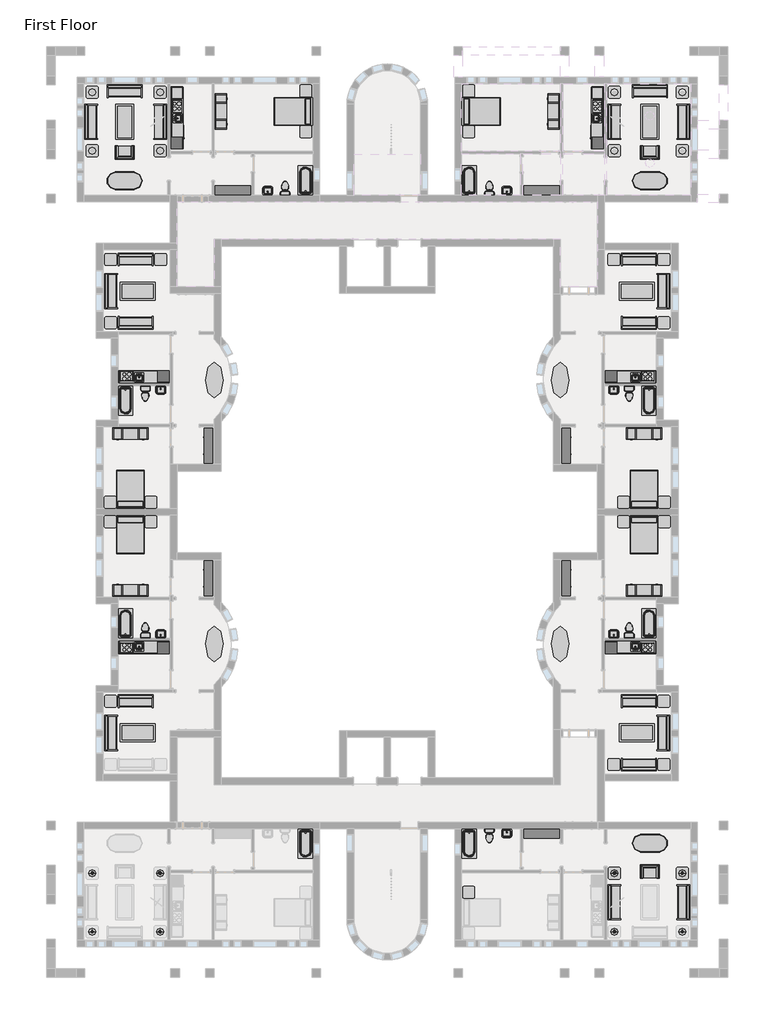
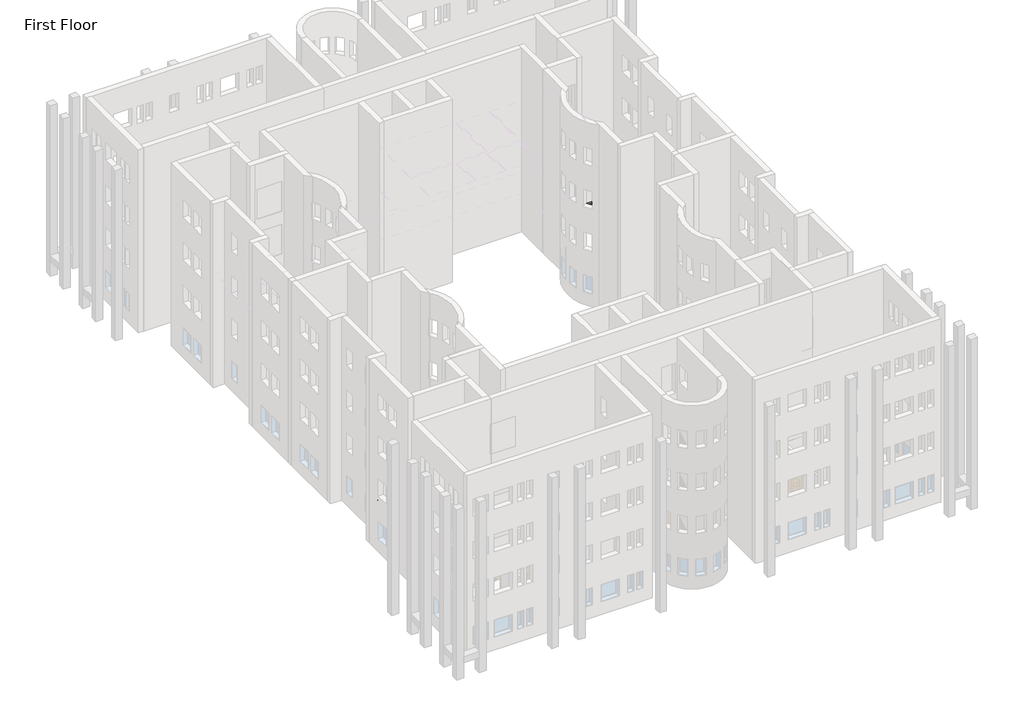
# One storey, part 20 of 21: 87 furniture elements, 22 flow terminals, 8 light fixtures, 6 proxies.
"""IFC4 building model written with IfcOpenShell, lengths in millimetres."""

from ifc_helpers import new_model, si_unit, origin, place, context, project, spatial, transform, mapped, element, save
from components import kitchenette_medium_5_9f73a4de, kitchenette_medium_5_952fb32b, proxy_64a468c4, proxy_b7eaed23, flow_terminal_0aeb31e3, flow_terminal_b53e1081, toilet_domestic_3d_toilet_domestic_3d_f7549cf7, toilet_domestic_3d_toilet_domestic_3d_183bbd19, toilet_domestic_3d_toilet_domestic_3d_a08e12bc, toilet_domestic_3d_toilet_domestic_3d_5530cc89, tub_rectangular_3d_tub_rectangular_3d_5e45a89b, tub_rectangular_3d_tub_rectangular_3d_98eb9c7c, furniture_096e7f55, furniture_097b173b, chair_corbu_chair_corbu_2764bdef, chair_corbu_chair_corbu_95fad79a, furniture_7c473f12, furniture_f6e81328, furniture_ddc78764, furniture_328d9d47, furniture_4ef38d96, furniture_dde8a40a, furniture_cd93a443, furniture_c9413244, furniture_2c34a4f9, furniture_cc351095, furniture_43880056, furniture_a7425590, furniture_3a588284, furniture_1befe2a2, table_lamp_standard_60w_120v_6e8cd8b1, table_lamp_standard_60w_120v_b33ea945

model = new_model("IFC4")

# Units and contexts
model_context = context("Model", 3, world=origin())
ifc_project = project(units=[si_unit("LENGTHUNIT", "METRE", prefix="MILLI")], contexts=[model_context])

# Site, building, storey
site = spatial("IfcSite", under=ifc_project)
building = spatial("IfcBuilding", under=site)
storey = spatial("IfcBuildingStorey", under=building, Name="First Floor", Elevation=0.0)

# Proxies
placement = place(None, origin())
kitchenette_medium_5_shape = kitchenette_medium_5_9f73a4de(model_context)
element("IfcBuildingElementProxy", 1, Name="Kitchenette - Medium : 5'", ObjectType="Kitchenette - Medium : 5'", at=placement, inside=storey, context=model_context, shape_type="MappedRepresentation", body=[
    mapped(kitchenette_medium_5_shape, transform((-28239.6966612, -4535.7577414, 0.0), x_axis=(1.0, 0.0, 0.0), y_axis=(0.0, 1.0, 0.0), z_axis=(0.0, 0.0, 1.0))),
])
element("IfcBuildingElementProxy", 2, Name="Kitchenette - Medium : 5'", ObjectType="Kitchenette - Medium : 5'", at=placement, inside=storey, context=model_context, shape_type="MappedRepresentation", body=[
    mapped(kitchenette_medium_5_shape, transform((-1884.6462514, -19155.1288852, 0.0), x_axis=(-1.0, 0.0, 0.0), y_axis=(0.0, -1.0, 0.0), z_axis=(0.0, 0.0, 1.0))),
])
kitchenette_medium_5_2_shape = kitchenette_medium_5_952fb32b(model_context)
element("IfcBuildingElementProxy", 3, Name="Kitchenette - Medium : 5'", ObjectType="Kitchenette - Medium : 5'", at=placement, inside=storey, context=model_context, shape_type="MappedRepresentation", body=[
    mapped(kitchenette_medium_5_2_shape, transform((-1884.6462514, -4535.7577414, 0.0), x_axis=(-1.0, 0.0, 0.0), y_axis=(0.0, -1.0, 0.0), z_axis=(0.0, 0.0, 1.0))),
])
element("IfcBuildingElementProxy", 4, Name="Kitchenette - Medium : 5'", ObjectType="Kitchenette - Medium : 5'", at=placement, inside=storey, context=model_context, shape_type="MappedRepresentation", body=[
    mapped(kitchenette_medium_5_2_shape, transform((-28239.6966612, -19155.1288852, 0.0), x_axis=(1.0, 0.0, 0.0), y_axis=(0.0, 1.0, 0.0), z_axis=(0.0, 0.0, 1.0))),
])
proxy_shape = proxy_64a468c4(model_context)
element("IfcBuildingElementProxy", 5, Name="Kitchenette - Medium : 8'6\"", ObjectType="Kitchenette - Medium : 8'6\"", at=placement, inside=storey, context=model_context, shape_type="MappedRepresentation", body=[
    mapped(proxy_shape, transform((-3887.7589563, 8837.7956433, 0.0), x_axis=(0.0, -1.0, 0.0), y_axis=(1.0, 0.0, 0.0), z_axis=(0.0, 0.0, 1.0))),
])
proxy_2_shape = proxy_b7eaed23(model_context)
element("IfcBuildingElementProxy", 6, Name="Kitchenette - Medium : 8'6\"", ObjectType="Kitchenette - Medium : 8'6\"", at=placement, inside=storey, context=model_context, shape_type="MappedRepresentation", body=[
    mapped(proxy_2_shape, transform((-26236.5839563, 8837.7956433, 0.0), x_axis=(0.0, -1.0, 0.0), y_axis=(1.0, 0.0, 0.0), z_axis=(0.0, 0.0, 1.0))),
])

# Flow terminals
flow_terminal_shape = flow_terminal_0aeb31e3(model_context)
element("IfcFlowTerminal", 7, ObjectType="Sink Vanity-Square : 24\" x 19\"", at=placement, inside=storey, context=model_context, shape_type="MappedRepresentation", body=[
    mapped(flow_terminal_shape, transform((-8864.7572157, 4706.5895878, 0.0), x_axis=(-1.0, 0.0, 0.0), y_axis=(0.0, -1.0, 0.0), z_axis=(0.0, 0.0, 1.0))),
])
element("IfcFlowTerminal", 8, ObjectType="Sink Vanity-Square : 24\" x 19\"", at=placement, inside=storey, context=model_context, shape_type="MappedRepresentation", body=[
    mapped(flow_terminal_shape, transform((-26788.6702389, -5496.2012144, 0.0), x_axis=(1.0, 0.0, 0.0), y_axis=(0.0, 1.0, 0.0), z_axis=(0.0, 0.0, 1.0))),
])
element("IfcFlowTerminal", 9, ObjectType="Sink Vanity-Square : 24\" x 19\"", at=placement, inside=storey, context=model_context, shape_type="MappedRepresentation", body=[
    mapped(flow_terminal_shape, transform((-3335.6726738, -18194.6854122, 0.0), x_axis=(-1.0, 0.0, 0.0), y_axis=(0.0, -1.0, 0.0), z_axis=(0.0, 0.0, 1.0))),
])
flow_terminal_2_shape = flow_terminal_b53e1081(model_context)
element("IfcFlowTerminal", 10, ObjectType="Sink Vanity-Square : 24\" x 19\"", at=placement, inside=storey, context=model_context, shape_type="MappedRepresentation", body=[
    mapped(flow_terminal_2_shape, transform((-3335.6726738, -5496.2012144, 0.0), x_axis=(-1.0, 0.0, 0.0), y_axis=(0.0, -1.0, 0.0), z_axis=(0.0, 0.0, 1.0))),
])
element("IfcFlowTerminal", 11, ObjectType="Sink Vanity-Square : 24\" x 19\"", at=placement, inside=storey, context=model_context, shape_type="MappedRepresentation", body=[
    mapped(flow_terminal_2_shape, transform((-21259.5856969, 4706.5895878, 0.0), x_axis=(1.0, 0.0, 0.0), y_axis=(0.0, 1.0, 0.0), z_axis=(0.0, 0.0, 1.0))),
])
element("IfcFlowTerminal", 12, ObjectType="Sink Vanity-Square : 24\" x 19\"", at=placement, inside=storey, context=model_context, shape_type="MappedRepresentation", body=[
    mapped(flow_terminal_2_shape, transform((-8864.7572157, -28397.4762144, 0.0), x_axis=(-1.0, 0.0, 0.0), y_axis=(0.0, -1.0, 0.0), z_axis=(0.0, 0.0, 1.0))),
])
element("IfcFlowTerminal", 13, ObjectType="Sink Vanity-Square : 24\" x 19\"", at=placement, inside=storey, context=model_context, shape_type="MappedRepresentation", body=[
    mapped(flow_terminal_2_shape, transform((-26788.6702389, -18194.6854122, 0.0), x_axis=(1.0, 0.0, 0.0), y_axis=(0.0, 1.0, 0.0), z_axis=(0.0, 0.0, 1.0))),
])
toilet_domestic_3d_toilet_domestic_3d_shape = toilet_domestic_3d_toilet_domestic_3d_f7549cf7(model_context)
toilet_domestic_3d_toilet_domestic_3d_2_shape = toilet_domestic_3d_toilet_domestic_3d_183bbd19(model_context)
element("IfcFlowTerminal", 14, ObjectType="Toilet-Domestic-3D : Toilet-Domestic-3D", at=placement, inside=storey, context=model_context, shape_type="MappedRepresentation", body=[
    mapped(toilet_domestic_3d_toilet_domestic_3d_shape, transform((-9782.1466587, 4940.866411, 0.0), x_axis=(-1.0000000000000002, 0.0, 0.0), y_axis=(0.0, -1.0000000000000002, 0.0), z_axis=(0.0, 0.0, 1.0))),
    mapped(toilet_domestic_3d_toilet_domestic_3d_2_shape, transform((-9782.1466587, 4940.866411, 0.0), x_axis=(-1.0000000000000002, 0.0, 0.0), y_axis=(0.0, -1.0000000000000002, 0.0), z_axis=(0.0, 0.0, 1.0))),
])
element("IfcFlowTerminal", 15, ObjectType="Toilet-Domestic-3D : Toilet-Domestic-3D", at=placement, inside=storey, context=model_context, shape_type="MappedRepresentation", body=[
    mapped(toilet_domestic_3d_toilet_domestic_3d_shape, transform((-27568.2684762, -5821.7170267, 0.0), x_axis=(1.0, 0.0, 0.0), y_axis=(0.0, 1.0, 0.0), z_axis=(0.0, 0.0, 1.0))),
    mapped(toilet_domestic_3d_toilet_domestic_3d_2_shape, transform((-27568.2684762, -5821.7170267, 0.0), x_axis=(1.0, 0.0, 0.0), y_axis=(0.0, 1.0, 0.0), z_axis=(0.0, 0.0, 1.0))),
])
element("IfcFlowTerminal", 16, ObjectType="Toilet-Domestic-3D : Toilet-Domestic-3D", at=placement, inside=storey, context=model_context, shape_type="MappedRepresentation", body=[
    mapped(toilet_domestic_3d_toilet_domestic_3d_shape, transform((-2556.0744364, -17869.1695999, 0.0), x_axis=(-1.0, 0.0, 0.0), y_axis=(0.0, -1.0, 0.0), z_axis=(0.0, 0.0, 1.0))),
    mapped(toilet_domestic_3d_toilet_domestic_3d_2_shape, transform((-2556.0744364, -17869.1695999, 0.0), x_axis=(-1.0, 0.0, 0.0), y_axis=(0.0, -1.0, 0.0), z_axis=(0.0, 0.0, 1.0))),
])
toilet_domestic_3d_toilet_domestic_3d_3_shape = toilet_domestic_3d_toilet_domestic_3d_a08e12bc(model_context)
toilet_domestic_3d_toilet_domestic_3d_4_shape = toilet_domestic_3d_toilet_domestic_3d_5530cc89(model_context)
element("IfcFlowTerminal", 17, ObjectType="Toilet-Domestic-3D : Toilet-Domestic-3D", at=placement, inside=storey, context=model_context, shape_type="MappedRepresentation", body=[
    mapped(toilet_domestic_3d_toilet_domestic_3d_3_shape, transform((-2556.0744364, -5821.7170267, 0.0), x_axis=(-1.0, 0.0, 0.0), y_axis=(0.0, -1.0, 0.0), z_axis=(0.0, 0.0, 1.0))),
    mapped(toilet_domestic_3d_toilet_domestic_3d_4_shape, transform((-2556.0744364, -5821.7170267, 0.0), x_axis=(-1.0, 0.0, 0.0), y_axis=(0.0, -1.0, 0.0), z_axis=(0.0, 0.0, 1.0))),
])
element("IfcFlowTerminal", 18, ObjectType="Toilet-Domestic-3D : Toilet-Domestic-3D", at=placement, inside=storey, context=model_context, shape_type="MappedRepresentation", body=[
    mapped(toilet_domestic_3d_toilet_domestic_3d_3_shape, transform((-20342.1962539, 4940.866411, 0.0), x_axis=(1.0, 0.0, 0.0), y_axis=(0.0, 1.0, 0.0), z_axis=(0.0, 0.0, 1.0))),
    mapped(toilet_domestic_3d_toilet_domestic_3d_4_shape, transform((-20342.1962539, 4940.866411, 0.0), x_axis=(1.0, 0.0, 0.0), y_axis=(0.0, 1.0, 0.0), z_axis=(0.0, 0.0, 1.0))),
])
element("IfcFlowTerminal", 19, ObjectType="Toilet-Domestic-3D : Toilet-Domestic-3D", at=placement, inside=storey, context=model_context, shape_type="MappedRepresentation", body=[
    mapped(toilet_domestic_3d_toilet_domestic_3d_3_shape, transform((-9782.1466587, -28631.7530376, 0.0), x_axis=(-1.0, 0.0, 0.0), y_axis=(0.0, -1.0, 0.0), z_axis=(0.0, 0.0, 1.0))),
    mapped(toilet_domestic_3d_toilet_domestic_3d_4_shape, transform((-9782.1466587, -28631.7530376, 0.0), x_axis=(-1.0, 0.0, 0.0), y_axis=(0.0, -1.0, 0.0), z_axis=(0.0, 0.0, 1.0))),
])
element("IfcFlowTerminal", 20, ObjectType="Toilet-Domestic-3D : Toilet-Domestic-3D", at=placement, inside=storey, context=model_context, shape_type="MappedRepresentation", body=[
    mapped(toilet_domestic_3d_toilet_domestic_3d_3_shape, transform((-27568.2684762, -17869.1695999, 0.0), x_axis=(1.0, 0.0, 0.0), y_axis=(0.0, 1.0, 0.0), z_axis=(0.0, 0.0, 1.0))),
    mapped(toilet_domestic_3d_toilet_domestic_3d_4_shape, transform((-27568.2684762, -17869.1695999, 0.0), x_axis=(1.0, 0.0, 0.0), y_axis=(0.0, 1.0, 0.0), z_axis=(0.0, 0.0, 1.0))),
])
tub_rectangular_3d_tub_rectangular_3d_shape = tub_rectangular_3d_tub_rectangular_3d_5e45a89b(model_context)
element("IfcFlowTerminal", 21, ObjectType="Tub-Rectangular-3D : Tub-Rectangular-3D", at=placement, inside=storey, context=model_context, shape_type="MappedRepresentation", body=[
    mapped(tub_rectangular_3d_tub_rectangular_3d_shape, transform((-11393.4589563, 5637.0471554, 0.0), x_axis=(0.0, 1.0, 0.0), y_axis=(-1.0, 0.0, 0.0), z_axis=(0.0, 0.0, 1.0))),
])
element("IfcFlowTerminal", 22, ObjectType="Tub-Rectangular-3D : Tub-Rectangular-3D", at=placement, inside=storey, context=model_context, shape_type="MappedRepresentation", body=[
    mapped(tub_rectangular_3d_tub_rectangular_3d_shape, transform((-965.1714563, -6439.358782, 0.0), x_axis=(0.0, -1.0, 0.0), y_axis=(1.0, 0.0, 0.0), z_axis=(0.0, 0.0, 1.0))),
])
element("IfcFlowTerminal", 23, ObjectType="Tub-Rectangular-3D : Tub-Rectangular-3D", at=placement, inside=storey, context=model_context, shape_type="MappedRepresentation", body=[
    mapped(tub_rectangular_3d_tub_rectangular_3d_shape, transform((-18730.8839563, -29327.933782, 0.0), x_axis=(0.0, -1.0, 0.0), y_axis=(1.0, 0.0, 0.0), z_axis=(0.0, 0.0, 1.0))),
])
element("IfcFlowTerminal", 24, ObjectType="Tub-Rectangular-3D : Tub-Rectangular-3D", at=placement, inside=storey, context=model_context, shape_type="MappedRepresentation", body=[
    mapped(tub_rectangular_3d_tub_rectangular_3d_shape, transform((-29159.1714563, -17251.5278446, 0.0), x_axis=(0.0, 1.0, 0.0), y_axis=(-1.0, 0.0, 0.0), z_axis=(0.0, 0.0, 1.0))),
])
tub_rectangular_3d_tub_rectangular_3d_2_shape = tub_rectangular_3d_tub_rectangular_3d_98eb9c7c(model_context)
element("IfcFlowTerminal", 25, ObjectType="Tub-Rectangular-3D : Tub-Rectangular-3D", at=placement, inside=storey, context=model_context, shape_type="MappedRepresentation", body=[
    mapped(tub_rectangular_3d_tub_rectangular_3d_2_shape, transform((-18730.8839563, 5637.0471554, 0.0), x_axis=(0.0, 1.0, 0.0), y_axis=(-1.0, 0.0, 0.0), z_axis=(0.0, 0.0, 1.0))),
])
element("IfcFlowTerminal", 26, ObjectType="Tub-Rectangular-3D : Tub-Rectangular-3D", at=placement, inside=storey, context=model_context, shape_type="MappedRepresentation", body=[
    mapped(tub_rectangular_3d_tub_rectangular_3d_2_shape, transform((-29159.1714563, -6439.358782, 0.0), x_axis=(0.0, -1.0, 0.0), y_axis=(1.0, 0.0, 0.0), z_axis=(0.0, 0.0, 1.0))),
])
element("IfcFlowTerminal", 27, ObjectType="Tub-Rectangular-3D : Tub-Rectangular-3D", at=placement, inside=storey, context=model_context, shape_type="MappedRepresentation", body=[
    mapped(tub_rectangular_3d_tub_rectangular_3d_2_shape, transform((-11393.4589563, -29327.933782, 0.0), x_axis=(0.0, -1.0, 0.0), y_axis=(1.0, 0.0, 0.0), z_axis=(0.0, 0.0, 1.0))),
])
element("IfcFlowTerminal", 28, ObjectType="Tub-Rectangular-3D : Tub-Rectangular-3D", at=placement, inside=storey, context=model_context, shape_type="MappedRepresentation", body=[
    mapped(tub_rectangular_3d_tub_rectangular_3d_2_shape, transform((-965.1714563, -17251.5278446, 0.0), x_axis=(0.0, 1.0, 0.0), y_axis=(-1.0, 0.0, 0.0), z_axis=(0.0, 0.0, 1.0))),
])

# Furniture
furniture_shape = furniture_096e7f55(model_context)
element("IfcFurniture", 29, ObjectType="Bed-Shaker : Double 56\" x 78\"", at=placement, inside=storey, context=model_context, shape_type="MappedRepresentation", body=[
    mapped(furniture_shape, transform((-11183.1982802, 8871.8755561, 0.0), x_axis=(0.0, 1.0, 0.0), y_axis=(-1.0, 0.0, 0.0), z_axis=(0.0, 0.0, 1.0))),
])
element("IfcFurniture", 30, ObjectType="Bed-Shaker : Double 56\" x 78\"", at=placement, inside=storey, context=model_context, shape_type="MappedRepresentation", body=[
    mapped(furniture_shape, transform((-28352.7607767, -11666.5280883, 0.0), x_axis=(-1.0, 0.0, 0.0), y_axis=(0.0, -1.0, 0.0), z_axis=(0.0, 0.0, 1.0))),
])
element("IfcFurniture", 31, ObjectType="Bed-Shaker : Double 56\" x 78\"", at=placement, inside=storey, context=model_context, shape_type="MappedRepresentation", body=[
    mapped(furniture_shape, transform((-1771.5821359, -12024.3585384, 0.0), x_axis=(1.0, 0.0, 0.0), y_axis=(0.0, 1.0, 0.0), z_axis=(0.0, 0.0, 1.0))),
])
furniture_2_shape = furniture_097b173b(model_context)
element("IfcFurniture", 32, ObjectType="Bed-Shaker : Double 56\" x 78\"", at=placement, inside=storey, context=model_context, shape_type="MappedRepresentation", body=[
    mapped(furniture_2_shape, transform((-1771.5821359, -11666.5280883, 0.0), x_axis=(1.0, 0.0, 0.0), y_axis=(0.0, 1.0, 0.0), z_axis=(0.0, 0.0, 1.0))),
])
element("IfcFurniture", 33, ObjectType="Bed-Shaker : Double 56\" x 78\"", at=placement, inside=storey, context=model_context, shape_type="MappedRepresentation", body=[
    mapped(furniture_2_shape, transform((-18941.1446324, 8871.8755561, 0.0), x_axis=(0.0, 1.0, 0.0), y_axis=(-1.0, 0.0, 0.0), z_axis=(0.0, 0.0, 1.0))),
])
element("IfcFurniture", 34, ObjectType="Bed-Shaker : Double 56\" x 78\"", at=placement, inside=storey, context=model_context, shape_type="MappedRepresentation", body=[
    mapped(furniture_2_shape, transform((-28352.7607767, -12024.3585384, 0.0), x_axis=(-1.0, 0.0, 0.0), y_axis=(0.0, -1.0, 0.0), z_axis=(0.0, 0.0, 1.0))),
])
chair_corbu_chair_corbu_shape = chair_corbu_chair_corbu_2764bdef(model_context)
element("IfcFurniture", 35, ObjectType="Chair-Corbu : Chair-Corbu", at=placement, inside=storey, context=model_context, shape_type="MappedRepresentation", body=[
    mapped(chair_corbu_chair_corbu_shape, transform((-914.0851858, 7193.4962359, 0.0), x_axis=(-1.0, 0.0, 0.0), y_axis=(0.0, -1.0, 0.0), z_axis=(0.0, 0.0, 1.0))),
])
chair_corbu_chair_corbu_2_shape = chair_corbu_chair_corbu_95fad79a(model_context)
element("IfcFurniture", 36, ObjectType="Chair-Corbu : Chair-Corbu", at=placement, inside=storey, context=model_context, shape_type="MappedRepresentation", body=[
    mapped(chair_corbu_chair_corbu_2_shape, transform((-29210.2577268, 7193.4962359, 0.0), x_axis=(1.0, 0.0, 0.0), y_axis=(0.0, 1.0, 0.0), z_axis=(0.0, 0.0, 1.0))),
])
element("IfcFurniture", 37, ObjectType="Chair-Corbu : Chair-Corbu", at=placement, inside=storey, context=model_context, shape_type="MappedRepresentation", body=[
    mapped(chair_corbu_chair_corbu_2_shape, transform((-914.0851858, -30884.3828625, 0.0), x_axis=(-1.0, 0.0, 0.0), y_axis=(0.0, -1.0, 0.0), z_axis=(0.0, 0.0, 1.0))),
])
furniture_3_shape = furniture_7c473f12(model_context)
element("IfcFurniture", 38, ObjectType="Dresser : 72\" x 60\" x 18\"", at=placement, inside=storey, context=model_context, shape_type="MappedRepresentation", body=[
    mapped(furniture_3_shape, transform((-7344.6522161, 4404.5812326, 0.0), x_axis=(-1.0, 0.0, 0.0), y_axis=(0.0, -1.0, 0.0), z_axis=(0.0, 0.0, 1.0))),
])
element("IfcFurniture", 39, ObjectType="Dresser : 72\" x 60\" x 18\"", at=placement, inside=storey, context=model_context, shape_type="MappedRepresentation", body=[
    mapped(furniture_3_shape, transform((-23943.0210022, -8693.2758576, 0.0), x_axis=(0.0, -1.0, 0.0), y_axis=(1.0, 0.0, 0.0), z_axis=(0.0, 0.0, 1.0))),
])
element("IfcFurniture", 40, ObjectType="Dresser : 72\" x 60\" x 18\"", at=placement, inside=storey, context=model_context, shape_type="MappedRepresentation", body=[
    mapped(furniture_3_shape, transform((-6181.3219104, -14997.610769, 0.0), x_axis=(0.0, 1.0, 0.0), y_axis=(-1.0, 0.0, 0.0), z_axis=(0.0, 0.0, 1.0))),
])
furniture_4_shape = furniture_f6e81328(model_context)
element("IfcFurniture", 41, ObjectType="Dresser : 72\" x 60\" x 18\"", at=placement, inside=storey, context=model_context, shape_type="MappedRepresentation", body=[
    mapped(furniture_4_shape, transform((-6181.3219104, -8693.2758576, 0.0), x_axis=(0.0, -1.0, 0.0), y_axis=(1.0, 0.0, 0.0), z_axis=(0.0, 0.0, 1.0))),
])
element("IfcFurniture", 42, ObjectType="Dresser : 72\" x 60\" x 18\"", at=placement, inside=storey, context=model_context, shape_type="MappedRepresentation", body=[
    mapped(furniture_4_shape, transform((-22779.6906965, 4404.5812326, 0.0), x_axis=(1.0, 0.0, 0.0), y_axis=(0.0, 1.0, 0.0), z_axis=(0.0, 0.0, 1.0))),
])
element("IfcFurniture", 43, ObjectType="Dresser : 72\" x 60\" x 18\"", at=placement, inside=storey, context=model_context, shape_type="MappedRepresentation", body=[
    mapped(furniture_4_shape, transform((-7344.6522161, -28095.4678592, 0.0), x_axis=(-1.0, 0.0, 0.0), y_axis=(0.0, -1.0, 0.0), z_axis=(0.0, 0.0, 1.0))),
])
element("IfcFurniture", 44, ObjectType="Dresser : 72\" x 60\" x 18\"", at=placement, inside=storey, context=model_context, shape_type="MappedRepresentation", body=[
    mapped(furniture_4_shape, transform((-23943.0210022, -14997.610769, 0.0), x_axis=(0.0, 1.0, 0.0), y_axis=(-1.0, 0.0, 0.0), z_axis=(0.0, 0.0, 1.0))),
])
furniture_5_shape = furniture_ddc78764(model_context)
element("IfcFurniture", 45, ObjectType="Entertainment Center : 72\" x 72\" x 24\"", at=placement, inside=storey, context=model_context, shape_type="MappedRepresentation", body=[
    mapped(furniture_5_shape, transform((-6059.4589563, 8852.8255561, 0.0), x_axis=(0.0, -1.0, 0.0), y_axis=(1.0, 0.0, 0.0), z_axis=(0.0, 0.0, 1.0))),
])
element("IfcFurniture", 46, ObjectType="Entertainment Center : 72\" x 72\" x 24\"", at=placement, inside=storey, context=model_context, shape_type="MappedRepresentation", body=[
    mapped(furniture_5_shape, transform((-28333.7107767, -7387.3005393, 0.0), x_axis=(1.0, 0.0, 0.0), y_axis=(0.0, 1.0, 0.0), z_axis=(0.0, 0.0, 1.0))),
])
element("IfcFurniture", 47, ObjectType="Entertainment Center : 72\" x 72\" x 24\"", at=placement, inside=storey, context=model_context, shape_type="MappedRepresentation", body=[
    mapped(furniture_5_shape, transform((-1790.6321359, -16303.5860874, 0.0), x_axis=(-1.0, 0.0, 0.0), y_axis=(0.0, -1.0, 0.0), z_axis=(0.0, 0.0, 1.0))),
])
furniture_6_shape = furniture_328d9d47(model_context)
element("IfcFurniture", 48, ObjectType="Entertainment Center : 72\" x 72\" x 24\"", at=placement, inside=storey, context=model_context, shape_type="MappedRepresentation", body=[
    mapped(furniture_6_shape, transform((-1790.6321359, -7387.3005393, 0.0), x_axis=(-1.0, 0.0, 0.0), y_axis=(0.0, -1.0, 0.0), z_axis=(0.0, 0.0, 1.0))),
])
element("IfcFurniture", 49, ObjectType="Entertainment Center : 72\" x 72\" x 24\"", at=placement, inside=storey, context=model_context, shape_type="MappedRepresentation", body=[
    mapped(furniture_6_shape, transform((-24064.8839563, 8852.8255561, 0.0), x_axis=(0.0, -1.0, 0.0), y_axis=(1.0, 0.0, 0.0), z_axis=(0.0, 0.0, 1.0))),
])
element("IfcFurniture", 50, ObjectType="Entertainment Center : 72\" x 72\" x 24\"", at=placement, inside=storey, context=model_context, shape_type="MappedRepresentation", body=[
    mapped(furniture_6_shape, transform((-28333.7107767, -16303.5860874, 0.0), x_axis=(1.0, 0.0, 0.0), y_axis=(0.0, 1.0, 0.0), z_axis=(0.0, 0.0, 1.0))),
])
furniture_7_shape = furniture_4ef38d96(model_context)
element("IfcFurniture", 51, ObjectType="Sofa : 72\"", at=placement, inside=storey, context=model_context, shape_type="MappedRepresentation", body=[
    mapped(furniture_7_shape, transform((-1557.8294481, 9741.2775883, 0.0), x_axis=(1.0, 0.0, 0.0), y_axis=(0.0, 1.0, 0.0), z_axis=(0.0, 0.0, 1.0))),
])
element("IfcFurniture", 52, ObjectType="Sofa : 72\"", at=placement, inside=storey, context=model_context, shape_type="MappedRepresentation", body=[
    mapped(furniture_7_shape, transform((93.5869453, 8383.0021785, 0.0), x_axis=(0.0, -1.0, 0.0), y_axis=(1.0, 0.0, 0.0), z_axis=(0.0, 0.0, 1.0))),
])
element("IfcFurniture", 53, ObjectType="Sofa : 72\"", at=placement, inside=storey, context=model_context, shape_type="MappedRepresentation", body=[
    mapped(furniture_7_shape, transform((-3170.104858, 8242.2611949, 0.0), x_axis=(0.0, 1.0, 0.0), y_axis=(-1.0, 0.0, 0.0), z_axis=(0.0, 0.0, 1.0))),
])
element("IfcFurniture", 54, ObjectType="Sofa : 72\"", at=placement, inside=storey, context=model_context, shape_type="MappedRepresentation", body=[
    mapped(furniture_7_shape, transform((-2125.8802189, 1048.8345299, 0.0), x_axis=(1.0, 0.0, 0.0), y_axis=(0.0, 1.0, 0.0), z_axis=(0.0, 0.0, 1.0))),
])
element("IfcFurniture", 55, ObjectType="Sofa : 72\"", at=placement, inside=storey, context=model_context, shape_type="MappedRepresentation", body=[
    mapped(furniture_7_shape, transform((-29189.229858, -509.6263051, 0.0), x_axis=(0.0, 1.0, 0.0), y_axis=(-1.0, 0.0, 0.0), z_axis=(0.0, 0.0, 1.0))),
])
element("IfcFurniture", 56, ObjectType="Sofa : 72\"", at=placement, inside=storey, context=model_context, shape_type="MappedRepresentation", body=[
    mapped(furniture_7_shape, transform((-27998.4626937, -1927.3461565, 0.0), x_axis=(-1.0, 0.0, 0.0), y_axis=(0.0, -1.0, 0.0), z_axis=(0.0, 0.0, 1.0))),
])
element("IfcFurniture", 57, ObjectType="Sofa : 72\"", at=placement, inside=storey, context=model_context, shape_type="MappedRepresentation", body=[
    mapped(furniture_7_shape, transform((-935.1130547, -23181.2603215, 0.0), x_axis=(0.0, -1.0, 0.0), y_axis=(1.0, 0.0, 0.0), z_axis=(0.0, 0.0, 1.0))),
])
element("IfcFurniture", 58, ObjectType="Sofa : 72\"", at=placement, inside=storey, context=model_context, shape_type="MappedRepresentation", body=[
    mapped(furniture_7_shape, transform((-2125.8802189, -21763.5404701, 0.0), x_axis=(1.0, 0.0, 0.0), y_axis=(0.0, 1.0, 0.0), z_axis=(0.0, 0.0, 1.0))),
])
furniture_8_shape = furniture_dde8a40a(model_context)
element("IfcFurniture", 59, ObjectType="Sofa : 72\"", at=placement, inside=storey, context=model_context, shape_type="MappedRepresentation", body=[
    mapped(furniture_8_shape, transform((-935.1130547, -509.6263051, 0.0), x_axis=(0.0, 1.0, 0.0), y_axis=(-1.0, 0.0, 0.0), z_axis=(0.0, 0.0, 1.0))),
])
element("IfcFurniture", 60, ObjectType="Sofa : 72\"", at=placement, inside=storey, context=model_context, shape_type="MappedRepresentation", body=[
    mapped(furniture_8_shape, transform((-2125.8802189, -1927.3461565, 0.0), x_axis=(1.0, 0.0, 0.0), y_axis=(0.0, 1.0, 0.0), z_axis=(0.0, 0.0, 1.0))),
])
element("IfcFurniture", 61, ObjectType="Sofa : 72\"", at=placement, inside=storey, context=model_context, shape_type="MappedRepresentation", body=[
    mapped(furniture_8_shape, transform((-28566.5134645, 9741.2775883, 0.0), x_axis=(-1.0, 0.0, 0.0), y_axis=(0.0, -1.0, 0.0), z_axis=(0.0, 0.0, 1.0))),
])
element("IfcFurniture", 62, ObjectType="Sofa : 72\"", at=placement, inside=storey, context=model_context, shape_type="MappedRepresentation", body=[
    mapped(furniture_8_shape, transform((-30217.929858, 8383.0021785, 0.0), x_axis=(0.0, -1.0, 0.0), y_axis=(1.0, 0.0, 0.0), z_axis=(0.0, 0.0, 1.0))),
])
element("IfcFurniture", 63, ObjectType="Sofa : 72\"", at=placement, inside=storey, context=model_context, shape_type="MappedRepresentation", body=[
    mapped(furniture_8_shape, transform((-26954.2380547, 8242.2611949, 0.0), x_axis=(0.0, 1.0, 0.0), y_axis=(-1.0, 0.0, 0.0), z_axis=(0.0, 0.0, 1.0))),
])
element("IfcFurniture", 64, ObjectType="Sofa : 72\"", at=placement, inside=storey, context=model_context, shape_type="MappedRepresentation", body=[
    mapped(furniture_8_shape, transform((-27998.4626937, 1048.8345299, 0.0), x_axis=(-1.0, 0.0, 0.0), y_axis=(0.0, -1.0, 0.0), z_axis=(0.0, 0.0, 1.0))),
])
element("IfcFurniture", 65, ObjectType="Sofa : 72\"", at=placement, inside=storey, context=model_context, shape_type="MappedRepresentation", body=[
    mapped(furniture_8_shape, transform((93.5869453, -32073.8888051, 0.0), x_axis=(0.0, 1.0, 0.0), y_axis=(-1.0, 0.0, 0.0), z_axis=(0.0, 0.0, 1.0))),
])
element("IfcFurniture", 66, ObjectType="Sofa : 72\"", at=placement, inside=storey, context=model_context, shape_type="MappedRepresentation", body=[
    mapped(furniture_8_shape, transform((-3170.104858, -31933.1478215, 0.0), x_axis=(0.0, -1.0, 0.0), y_axis=(1.0, 0.0, 0.0), z_axis=(0.0, 0.0, 1.0))),
])
element("IfcFurniture", 67, ObjectType="Sofa : 72\"", at=placement, inside=storey, context=model_context, shape_type="MappedRepresentation", body=[
    mapped(furniture_8_shape, transform((-2125.8802189, -24739.7211565, 0.0), x_axis=(1.0, 0.0, 0.0), y_axis=(0.0, 1.0, 0.0), z_axis=(0.0, 0.0, 1.0))),
])
element("IfcFurniture", 68, ObjectType="Sofa : 72\"", at=placement, inside=storey, context=model_context, shape_type="MappedRepresentation", body=[
    mapped(furniture_8_shape, transform((-29189.229858, -23181.2603215, 0.0), x_axis=(0.0, -1.0, 0.0), y_axis=(1.0, 0.0, 0.0), z_axis=(0.0, 0.0, 1.0))),
])
element("IfcFurniture", 69, ObjectType="Sofa : 72\"", at=placement, inside=storey, context=model_context, shape_type="MappedRepresentation", body=[
    mapped(furniture_8_shape, transform((-27998.4626937, -21763.5404701, 0.0), x_axis=(-1.0, 0.0, 0.0), y_axis=(0.0, -1.0, 0.0), z_axis=(0.0, 0.0, 1.0))),
])
furniture_9_shape = furniture_cd93a443(model_context)
element("IfcFurniture", 70, ObjectType="Table-Coffee : 36\" x 72\" x 18\"", at=placement, inside=storey, context=model_context, shape_type="MappedRepresentation", body=[
    mapped(furniture_9_shape, transform((-1582.6700341, 8330.8974534, 0.0), x_axis=(0.0, -1.0, 0.0), y_axis=(1.0, 0.0, 0.0), z_axis=(0.0, 0.0, 1.0))),
])
element("IfcFurniture", 71, ObjectType="Table-Coffee : 36\" x 72\" x 18\"", at=placement, inside=storey, context=model_context, shape_type="MappedRepresentation", body=[
    mapped(furniture_9_shape, transform((-27982.049723, -534.4668911, 0.0), x_axis=(1.0, 0.0, 0.0), y_axis=(0.0, 1.0, 0.0), z_axis=(0.0, 0.0, 1.0))),
])
element("IfcFurniture", 72, ObjectType="Table-Coffee : 36\" x 72\" x 18\"", at=placement, inside=storey, context=model_context, shape_type="MappedRepresentation", body=[
    mapped(furniture_9_shape, transform((-2142.2931896, -23156.4197355, 0.0), x_axis=(-1.0, 0.0, 0.0), y_axis=(0.0, -1.0, 0.0), z_axis=(0.0, 0.0, 1.0))),
])
furniture_10_shape = furniture_c9413244(model_context)
element("IfcFurniture", 73, ObjectType="Table-Coffee : 36\" x 72\" x 18\"", at=placement, inside=storey, context=model_context, shape_type="MappedRepresentation", body=[
    mapped(furniture_10_shape, transform((-2142.2931896, -534.4668911, 0.0), x_axis=(-1.0, 0.0, 0.0), y_axis=(0.0, -1.0, 0.0), z_axis=(0.0, 0.0, 1.0))),
])
element("IfcFurniture", 74, ObjectType="Table-Coffee : 36\" x 72\" x 18\"", at=placement, inside=storey, context=model_context, shape_type="MappedRepresentation", body=[
    mapped(furniture_10_shape, transform((-28541.6728785, 8330.8974534, 0.0), x_axis=(0.0, -1.0, 0.0), y_axis=(1.0, 0.0, 0.0), z_axis=(0.0, 0.0, 1.0))),
])
element("IfcFurniture", 75, ObjectType="Table-Coffee : 36\" x 72\" x 18\"", at=placement, inside=storey, context=model_context, shape_type="MappedRepresentation", body=[
    mapped(furniture_10_shape, transform((-27982.049723, -23156.4197355, 0.0), x_axis=(1.0, 0.0, 0.0), y_axis=(0.0, 1.0, 0.0), z_axis=(0.0, 0.0, 1.0))),
])
furniture_11_shape = furniture_2c34a4f9(model_context)
element("IfcFurniture", 76, ObjectType="Table-Dining Oval : 36\" x 72\"", at=placement, inside=storey, context=model_context, shape_type="MappedRepresentation", body=[
    mapped(furniture_11_shape, transform((-1085.6392842, 5622.7300473, 0.0), x_axis=(1.0, 0.0, 0.0), y_axis=(0.0, 1.0, 0.0), z_axis=(0.0, 0.0, 1.0))),
])
furniture_12_shape = furniture_cc351095(model_context)
element("IfcFurniture", 77, ObjectType="Table-Dining Oval : 36\" x 72\"", at=placement, inside=storey, context=model_context, shape_type="MappedRepresentation", body=[
    mapped(furniture_12_shape, transform((-29038.7036284, 5622.7300473, 0.0), x_axis=(-1.0, 0.0, 0.0), y_axis=(0.0, -1.0, 0.0), z_axis=(0.0, 0.0, 1.0))),
])
element("IfcFurniture", 78, ObjectType="Table-Dining Oval : 36\" x 72\"", at=placement, inside=storey, context=model_context, shape_type="MappedRepresentation", body=[
    mapped(furniture_12_shape, transform((-1085.6392842, -29313.616674, 0.0), x_axis=(1.0, 0.0, 0.0), y_axis=(0.0, 1.0, 0.0), z_axis=(0.0, 0.0, 1.0))),
])
furniture_13_shape = furniture_43880056(model_context)
element("IfcFurniture", 79, ObjectType="Table-Ellipse : 72\" x 36\"", at=placement, inside=storey, context=model_context, shape_type="MappedRepresentation", body=[
    mapped(furniture_13_shape, transform((-24001.3839563, -5027.1308133, 0.0), x_axis=(0.0, 1.0, 0.0), y_axis=(-1.0, 0.0, 0.0), z_axis=(0.0, 0.0, 1.0))),
])
element("IfcFurniture", 80, ObjectType="Table-Ellipse : 72\" x 36\"", at=placement, inside=storey, context=model_context, shape_type="MappedRepresentation", body=[
    mapped(furniture_13_shape, transform((-6122.9589563, -18663.7558133, 0.0), x_axis=(0.0, -1.0, 0.0), y_axis=(1.0, 0.0, 0.0), z_axis=(0.0, 0.0, 1.0))),
])
furniture_14_shape = furniture_a7425590(model_context)
element("IfcFurniture", 81, ObjectType="Table-Ellipse : 72\" x 36\"", at=placement, inside=storey, context=model_context, shape_type="MappedRepresentation", body=[
    mapped(furniture_14_shape, transform((-6122.9589563, -5027.1308133, 0.0), x_axis=(0.0, 1.0, 0.0), y_axis=(-1.0, 0.0, 0.0), z_axis=(0.0, 0.0, 1.0))),
])
element("IfcFurniture", 82, ObjectType="Table-Ellipse : 72\" x 36\"", at=placement, inside=storey, context=model_context, shape_type="MappedRepresentation", body=[
    mapped(furniture_14_shape, transform((-24001.3839563, -18663.7558133, 0.0), x_axis=(0.0, -1.0, 0.0), y_axis=(1.0, 0.0, 0.0), z_axis=(0.0, 0.0, 1.0))),
])
furniture_15_shape = furniture_3a588284(model_context)
element("IfcFurniture", 83, ObjectType="Table-End : 24\" x 24\"", at=placement, inside=storey, context=model_context, shape_type="MappedRepresentation", body=[
    mapped(furniture_15_shape, transform((-119.5925866, 9684.2316867, 0.0), x_axis=(1.0, 0.0, 0.0), y_axis=(0.0, 1.0, 0.0), z_axis=(0.0, 0.0, 1.0))),
])
element("IfcFurniture", 84, ObjectType="Table-End : 24\" x 24\"", at=placement, inside=storey, context=model_context, shape_type="MappedRepresentation", body=[
    mapped(furniture_15_shape, transform((-3624.7925866, 9684.2316867, 0.0), x_axis=(1.0, 0.0, 0.0), y_axis=(0.0, 1.0, 0.0), z_axis=(0.0, 0.0, 1.0))),
])
element("IfcFurniture", 85, ObjectType="Table-End : 24\" x 24\"", at=placement, inside=storey, context=model_context, shape_type="MappedRepresentation", body=[
    mapped(furniture_15_shape, transform((-3624.7925866, 6660.0441867, 0.0), x_axis=(1.0, 0.0, 0.0), y_axis=(0.0, 1.0, 0.0), z_axis=(0.0, 0.0, 1.0))),
])
element("IfcFurniture", 86, ObjectType="Table-End : 24\" x 24\"", at=placement, inside=storey, context=model_context, shape_type="MappedRepresentation", body=[
    mapped(furniture_15_shape, transform((-119.5925866, 6660.0441867, 0.0), x_axis=(1.0, 0.0, 0.0), y_axis=(0.0, 1.0, 0.0), z_axis=(0.0, 0.0, 1.0))),
])
element("IfcFurniture", 87, ObjectType="Table-End : 24\" x 24\"", at=placement, inside=storey, context=model_context, shape_type="MappedRepresentation", body=[
    mapped(furniture_15_shape, transform((-11164.2346356, 9756.0737357, 0.0), x_axis=(1.0, 0.0, 0.0), y_axis=(0.0, 1.0, 0.0), z_axis=(0.0, 0.0, 1.0))),
])
element("IfcFurniture", 88, ObjectType="Table-End : 24\" x 24\"", at=placement, inside=storey, context=model_context, shape_type="MappedRepresentation", body=[
    mapped(furniture_15_shape, transform((-2693.8803155, -11647.5644436, 0.0), x_axis=(0.0, 1.0, 0.0), y_axis=(-1.0, 0.0, 0.0), z_axis=(0.0, 0.0, 1.0))),
])
element("IfcFurniture", 89, ObjectType="Table-End : 24\" x 24\"", at=placement, inside=storey, context=model_context, shape_type="MappedRepresentation", body=[
    mapped(furniture_15_shape, transform((-912.5097271, 1503.5222585, 0.0), x_axis=(0.0, -1.0, 0.0), y_axis=(1.0, 0.0, 0.0), z_axis=(0.0, 0.0, 1.0))),
])
element("IfcFurniture", 90, ObjectType="Table-End : 24\" x 24\"", at=placement, inside=storey, context=model_context, shape_type="MappedRepresentation", body=[
    mapped(furniture_15_shape, transform((-18960.1082771, 7949.5773764, 0.0), x_axis=(-1.0, 0.0, 0.0), y_axis=(0.0, -1.0, 0.0), z_axis=(0.0, 0.0, 1.0))),
])
element("IfcFurniture", 91, ObjectType="Table-End : 24\" x 24\"", at=placement, inside=storey, context=model_context, shape_type="MappedRepresentation", body=[
    mapped(furniture_15_shape, transform((-29211.8331855, -2382.0338852, 0.0), x_axis=(0.0, 1.0, 0.0), y_axis=(-1.0, 0.0, 0.0), z_axis=(0.0, 0.0, 1.0))),
])
element("IfcFurniture", 92, ObjectType="Table-End : 24\" x 24\"", at=placement, inside=storey, context=model_context, shape_type="MappedRepresentation", body=[
    mapped(furniture_15_shape, transform((-29236.9589563, -11647.5644436, 0.0), x_axis=(0.0, 1.0, 0.0), y_axis=(-1.0, 0.0, 0.0), z_axis=(0.0, 0.0, 1.0))),
])
element("IfcFurniture", 93, ObjectType="Table-End : 24\" x 24\"", at=placement, inside=storey, context=model_context, shape_type="MappedRepresentation", body=[
    mapped(furniture_15_shape, transform((-26925.8331855, 1503.5222585, 0.0), x_axis=(0.0, -1.0, 0.0), y_axis=(1.0, 0.0, 0.0), z_axis=(0.0, 0.0, 1.0))),
])
element("IfcFurniture", 94, ObjectType="Table-End : 24\" x 24\"", at=placement, inside=storey, context=model_context, shape_type="MappedRepresentation", body=[
    mapped(furniture_15_shape, transform((-11164.2346356, -31640.4640031, 0.0), x_axis=(1.0, 0.0, 0.0), y_axis=(0.0, 1.0, 0.0), z_axis=(0.0, 0.0, 1.0))),
])
element("IfcFurniture", 95, ObjectType="Table-End : 24\" x 24\"", at=placement, inside=storey, context=model_context, shape_type="MappedRepresentation", body=[
    mapped(furniture_15_shape, transform((-912.5097271, -21308.8527415, 0.0), x_axis=(0.0, -1.0, 0.0), y_axis=(1.0, 0.0, 0.0), z_axis=(0.0, 0.0, 1.0))),
])
element("IfcFurniture", 96, ObjectType="Table-End : 24\" x 24\"", at=placement, inside=storey, context=model_context, shape_type="MappedRepresentation", body=[
    mapped(furniture_15_shape, transform((-887.3839563, -12043.322183, 0.0), x_axis=(0.0, -1.0, 0.0), y_axis=(1.0, 0.0, 0.0), z_axis=(0.0, 0.0, 1.0))),
])
element("IfcFurniture", 97, ObjectType="Table-End : 24\" x 24\"", at=placement, inside=storey, context=model_context, shape_type="MappedRepresentation", body=[
    mapped(furniture_15_shape, transform((-3198.5097271, -25194.4088852, 0.0), x_axis=(0.0, 1.0, 0.0), y_axis=(-1.0, 0.0, 0.0), z_axis=(0.0, 0.0, 1.0))),
])
element("IfcFurniture", 98, ObjectType="Table-End : 24\" x 24\"", at=placement, inside=storey, context=model_context, shape_type="MappedRepresentation", body=[
    mapped(furniture_15_shape, transform((-27430.4625971, -12043.322183, 0.0), x_axis=(0.0, -1.0, 0.0), y_axis=(1.0, 0.0, 0.0), z_axis=(0.0, 0.0, 1.0))),
])
furniture_16_shape = furniture_1befe2a2(model_context)
element("IfcFurniture", 99, ObjectType="Table-End : 24\" x 24\"", at=placement, inside=storey, context=model_context, shape_type="MappedRepresentation", body=[
    mapped(furniture_16_shape, transform((-11164.2346356, 7949.5773764, 0.0), x_axis=(1.0, 0.0, 0.0), y_axis=(0.0, 1.0, 0.0), z_axis=(0.0, 0.0, 1.0))),
])
element("IfcFurniture", 100, ObjectType="Table-End : 24\" x 24\"", at=placement, inside=storey, context=model_context, shape_type="MappedRepresentation", body=[
    mapped(furniture_16_shape, transform((-912.5097271, -2382.0338852, 0.0), x_axis=(0.0, 1.0, 0.0), y_axis=(-1.0, 0.0, 0.0), z_axis=(0.0, 0.0, 1.0))),
])
element("IfcFurniture", 101, ObjectType="Table-End : 24\" x 24\"", at=placement, inside=storey, context=model_context, shape_type="MappedRepresentation", body=[
    mapped(furniture_16_shape, transform((-887.3839563, -11647.5644436, 0.0), x_axis=(0.0, 1.0, 0.0), y_axis=(-1.0, 0.0, 0.0), z_axis=(0.0, 0.0, 1.0))),
])
element("IfcFurniture", 102, ObjectType="Table-End : 24\" x 24\"", at=placement, inside=storey, context=model_context, shape_type="MappedRepresentation", body=[
    mapped(furniture_16_shape, transform((-3198.5097271, 1503.5222585, 0.0), x_axis=(0.0, -1.0, 0.0), y_axis=(1.0, 0.0, 0.0), z_axis=(0.0, 0.0, 1.0))),
])
element("IfcFurniture", 103, ObjectType="Table-End : 24\" x 24\"", at=placement, inside=storey, context=model_context, shape_type="MappedRepresentation", body=[
    mapped(furniture_16_shape, transform((-30004.750326, 9684.2316867, 0.0), x_axis=(-1.0, 0.0, 0.0), y_axis=(0.0, -1.0, 0.0), z_axis=(0.0, 0.0, 1.0))),
])
element("IfcFurniture", 104, ObjectType="Table-End : 24\" x 24\"", at=placement, inside=storey, context=model_context, shape_type="MappedRepresentation", body=[
    mapped(furniture_16_shape, transform((-26499.550326, 9684.2316867, 0.0), x_axis=(-1.0, 0.0, 0.0), y_axis=(0.0, -1.0, 0.0), z_axis=(0.0, 0.0, 1.0))),
])
element("IfcFurniture", 105, ObjectType="Table-End : 24\" x 24\"", at=placement, inside=storey, context=model_context, shape_type="MappedRepresentation", body=[
    mapped(furniture_16_shape, transform((-26499.550326, 6660.0441867, 0.0), x_axis=(-1.0, 0.0, 0.0), y_axis=(0.0, -1.0, 0.0), z_axis=(0.0, 0.0, 1.0))),
])
element("IfcFurniture", 106, ObjectType="Table-End : 24\" x 24\"", at=placement, inside=storey, context=model_context, shape_type="MappedRepresentation", body=[
    mapped(furniture_16_shape, transform((-30004.750326, 6660.0441867, 0.0), x_axis=(-1.0, 0.0, 0.0), y_axis=(0.0, -1.0, 0.0), z_axis=(0.0, 0.0, 1.0))),
])
element("IfcFurniture", 107, ObjectType="Table-End : 24\" x 24\"", at=placement, inside=storey, context=model_context, shape_type="MappedRepresentation", body=[
    mapped(furniture_16_shape, transform((-18960.1082771, 9756.0737357, 0.0), x_axis=(-1.0, 0.0, 0.0), y_axis=(0.0, -1.0, 0.0), z_axis=(0.0, 0.0, 1.0))),
])
element("IfcFurniture", 108, ObjectType="Table-End : 24\" x 24\"", at=placement, inside=storey, context=model_context, shape_type="MappedRepresentation", body=[
    mapped(furniture_16_shape, transform((-27430.4625971, -11647.5644436, 0.0), x_axis=(0.0, 1.0, 0.0), y_axis=(-1.0, 0.0, 0.0), z_axis=(0.0, 0.0, 1.0))),
])
element("IfcFurniture", 109, ObjectType="Table-End : 24\" x 24\"", at=placement, inside=storey, context=model_context, shape_type="MappedRepresentation", body=[
    mapped(furniture_16_shape, transform((-29211.8331855, 1503.5222585, 0.0), x_axis=(0.0, -1.0, 0.0), y_axis=(1.0, 0.0, 0.0), z_axis=(0.0, 0.0, 1.0))),
])
element("IfcFurniture", 110, ObjectType="Table-End : 24\" x 24\"", at=placement, inside=storey, context=model_context, shape_type="MappedRepresentation", body=[
    mapped(furniture_16_shape, transform((-3624.7925866, -30350.9308133, 0.0), x_axis=(1.0, 0.0, 0.0), y_axis=(0.0, 1.0, 0.0), z_axis=(0.0, 0.0, 1.0))),
])
element("IfcFurniture", 111, ObjectType="Table-End : 24\" x 24\"", at=placement, inside=storey, context=model_context, shape_type="MappedRepresentation", body=[
    mapped(furniture_16_shape, transform((-119.5925866, -30350.9308133, 0.0), x_axis=(1.0, 0.0, 0.0), y_axis=(0.0, 1.0, 0.0), z_axis=(0.0, 0.0, 1.0))),
])
element("IfcFurniture", 112, ObjectType="Table-End : 24\" x 24\"", at=placement, inside=storey, context=model_context, shape_type="MappedRepresentation", body=[
    mapped(furniture_16_shape, transform((-2693.8803155, -12043.322183, 0.0), x_axis=(0.0, -1.0, 0.0), y_axis=(1.0, 0.0, 0.0), z_axis=(0.0, 0.0, 1.0))),
])
element("IfcFurniture", 113, ObjectType="Table-End : 24\" x 24\"", at=placement, inside=storey, context=model_context, shape_type="MappedRepresentation", body=[
    mapped(furniture_16_shape, transform((-912.5097271, -25194.4088852, 0.0), x_axis=(0.0, 1.0, 0.0), y_axis=(-1.0, 0.0, 0.0), z_axis=(0.0, 0.0, 1.0))),
])
element("IfcFurniture", 114, ObjectType="Table-End : 24\" x 24\"", at=placement, inside=storey, context=model_context, shape_type="MappedRepresentation", body=[
    mapped(furniture_16_shape, transform((-29211.8331855, -21308.8527415, 0.0), x_axis=(0.0, -1.0, 0.0), y_axis=(1.0, 0.0, 0.0), z_axis=(0.0, 0.0, 1.0))),
])
element("IfcFurniture", 115, ObjectType="Table-End : 24\" x 24\"", at=placement, inside=storey, context=model_context, shape_type="MappedRepresentation", body=[
    mapped(furniture_16_shape, transform((-29236.9589563, -12043.322183, 0.0), x_axis=(0.0, -1.0, 0.0), y_axis=(1.0, 0.0, 0.0), z_axis=(0.0, 0.0, 1.0))),
])

# Light fixtures
table_lamp_standard_60w_120v_shape = table_lamp_standard_60w_120v_6e8cd8b1(model_context)
element("IfcLightFixture", 116, ObjectType="Table Lamp - Standard : 60W - 120V", at=placement, inside=storey, context=model_context, shape_type="MappedRepresentation", body=[
    mapped(table_lamp_standard_60w_120v_shape, transform((-30313.2839563, -30503.3308133, 381.0), x_axis=(-1.0, 0.0, 0.0), y_axis=(0.0, -1.0, 0.0), z_axis=(0.0, 0.0, 1.0))),
])
element("IfcLightFixture", 117, ObjectType="Table Lamp - Standard : 60W - 120V", at=placement, inside=storey, context=model_context, shape_type="MappedRepresentation", body=[
    mapped(table_lamp_standard_60w_120v_shape, transform((-30313.2839563, -33527.5183133, 381.0), x_axis=(-1.0, 0.0, 0.0), y_axis=(0.0, -1.0, 0.0), z_axis=(0.0, 0.0, 1.0))),
])
element("IfcLightFixture", 118, ObjectType="Table Lamp - Standard : 60W - 120V", at=placement, inside=storey, context=model_context, shape_type="MappedRepresentation", body=[
    mapped(table_lamp_standard_60w_120v_shape, transform((-26808.0839563, -33527.5183133, 381.0), x_axis=(-1.0, 0.0, 0.0), y_axis=(0.0, -1.0, 0.0), z_axis=(0.0, 0.0, 1.0))),
])
element("IfcLightFixture", 119, ObjectType="Table Lamp - Standard : 60W - 120V", at=placement, inside=storey, context=model_context, shape_type="MappedRepresentation", body=[
    mapped(table_lamp_standard_60w_120v_shape, transform((-26808.0839563, -30503.3308133, 381.0), x_axis=(-1.0, 0.0, 0.0), y_axis=(0.0, -1.0, 0.0), z_axis=(0.0, 0.0, 1.0))),
])
table_lamp_standard_60w_120v_2_shape = table_lamp_standard_60w_120v_b33ea945(model_context)
element("IfcLightFixture", 120, ObjectType="Table Lamp - Standard : 60W - 120V", at=placement, inside=storey, context=model_context, shape_type="MappedRepresentation", body=[
    mapped(table_lamp_standard_60w_120v_2_shape, transform((188.9410437, -30503.3308133, 381.0), x_axis=(1.0, 0.0, 0.0), y_axis=(0.0, 1.0, 0.0), z_axis=(0.0, 0.0, 1.0))),
])
element("IfcLightFixture", 121, ObjectType="Table Lamp - Standard : 60W - 120V", at=placement, inside=storey, context=model_context, shape_type="MappedRepresentation", body=[
    mapped(table_lamp_standard_60w_120v_2_shape, transform((188.9410437, -33527.5183133, 381.0), x_axis=(1.0, 0.0, 0.0), y_axis=(0.0, 1.0, 0.0), z_axis=(0.0, 0.0, 1.0))),
])
element("IfcLightFixture", 122, ObjectType="Table Lamp - Standard : 60W - 120V", at=placement, inside=storey, context=model_context, shape_type="MappedRepresentation", body=[
    mapped(table_lamp_standard_60w_120v_2_shape, transform((-3316.2589563, -33527.5183133, 381.0), x_axis=(1.0, 0.0, 0.0), y_axis=(0.0, 1.0, 0.0), z_axis=(0.0, 0.0, 1.0))),
])
element("IfcLightFixture", 123, ObjectType="Table Lamp - Standard : 60W - 120V", at=placement, inside=storey, context=model_context, shape_type="MappedRepresentation", body=[
    mapped(table_lamp_standard_60w_120v_2_shape, transform((-3316.2589563, -30503.3308133, 381.0), x_axis=(1.0, 0.0, 0.0), y_axis=(0.0, 1.0, 0.0), z_axis=(0.0, 0.0, 1.0))),
])

save(model, "model.ifc")
